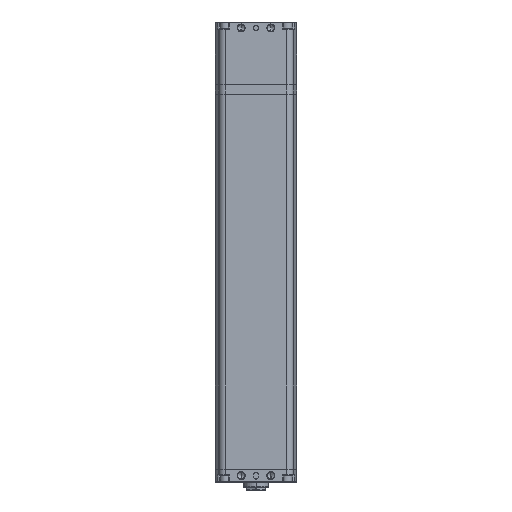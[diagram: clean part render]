
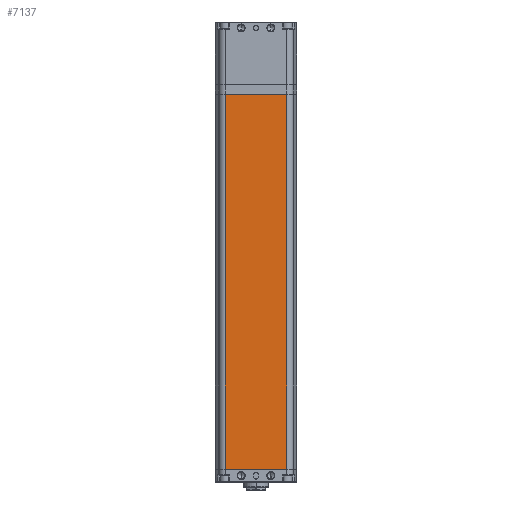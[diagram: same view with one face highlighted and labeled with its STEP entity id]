
A CAD part, front view. The second image highlights one B-rep face of the part: STEP entity #7137.
In plain terms, the highlighted planar face has unit normal (0, -1, 0).
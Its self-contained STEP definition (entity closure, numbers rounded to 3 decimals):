
#368 = CARTESIAN_POINT ( 'NONE',  ( -41., -41., -451. ) ) ;
#658 = ORIENTED_EDGE ( 'NONE', *, *, #18867, .T. ) ;
#991 = DIRECTION ( 'NONE',  ( 0., -1., 0. ) ) ;
#2040 = LINE ( 'NONE', #368, #7247 ) ;
#2553 = DIRECTION ( 'NONE',  ( 0., 0., -1. ) ) ;
#2710 = CARTESIAN_POINT ( 'NONE',  ( -41., -41., -73. ) ) ;
#3001 = VECTOR ( 'NONE', #21229, 1000. ) ;
#3646 = EDGE_CURVE ( 'NONE', #9646, #14250, #14471, .T. ) ;
#4720 = VECTOR ( 'NONE', #14478, 1000. ) ;
#5112 = ORIENTED_EDGE ( 'NONE', *, *, #13222, .T. ) ;
#5813 = CARTESIAN_POINT ( 'NONE',  ( -31.138, -41., -73. ) ) ;
#7137 = ADVANCED_FACE ( 'NONE', ( #20165 ), #21865, .T. ) ;
#7247 = VECTOR ( 'NONE', #7338, 1000. ) ;
#7338 = DIRECTION ( 'NONE',  ( 1., 0., 0. ) ) ;
#7740 = CARTESIAN_POINT ( 'NONE',  ( -41., -41., -1073. ) ) ;
#7836 = CARTESIAN_POINT ( 'NONE',  ( 31.138, -41., -73. ) ) ;
#7872 = CARTESIAN_POINT ( 'NONE',  ( -31.138, -41., -451. ) ) ;
#8371 = CARTESIAN_POINT ( 'NONE',  ( 31.138, -41., -451. ) ) ;
#9594 = DIRECTION ( 'NONE',  ( 1., 0., 0. ) ) ;
#9646 = VERTEX_POINT ( 'NONE', #5813 ) ;
#10222 = ORIENTED_EDGE ( 'NONE', *, *, #15999, .T. ) ;
#10611 = LINE ( 'NONE', #12318, #4720 ) ;
#10939 = LINE ( 'NONE', #12521, #3001 ) ;
#11627 = VERTEX_POINT ( 'NONE', #8371 ) ;
#11929 = ORIENTED_EDGE ( 'NONE', *, *, #3646, .F. ) ;
#12318 = CARTESIAN_POINT ( 'NONE',  ( 31.138, -41., -1073. ) ) ;
#12521 = CARTESIAN_POINT ( 'NONE',  ( -31.138, -41., -1073. ) ) ;
#13222 = EDGE_CURVE ( 'NONE', #21544, #11627, #2040, .T. ) ;
#13439 = EDGE_LOOP ( 'NONE', ( #10222, #5112, #658, #11929 ) ) ;
#14250 = VERTEX_POINT ( 'NONE', #7836 ) ;
#14471 = LINE ( 'NONE', #2710, #16186 ) ;
#14478 = DIRECTION ( 'NONE',  ( 0., 0., 1. ) ) ;
#15999 = EDGE_CURVE ( 'NONE', #9646, #21544, #10939, .T. ) ;
#16186 = VECTOR ( 'NONE', #9594, 1000. ) ;
#18867 = EDGE_CURVE ( 'NONE', #11627, #14250, #10611, .T. ) ;
#19561 = AXIS2_PLACEMENT_3D ( 'NONE', #7740, #991, #2553 ) ;
#20165 = FACE_OUTER_BOUND ( 'NONE', #13439, .T. ) ;
#21229 = DIRECTION ( 'NONE',  ( 0., 0., -1. ) ) ;
#21544 = VERTEX_POINT ( 'NONE', #7872 ) ;
#21865 = PLANE ( 'NONE',  #19561 ) ;
